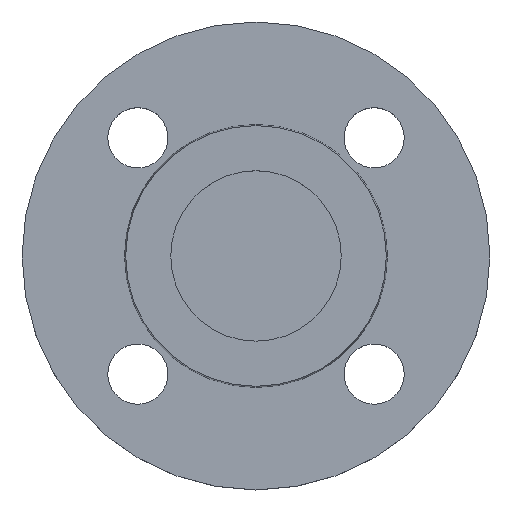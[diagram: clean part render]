
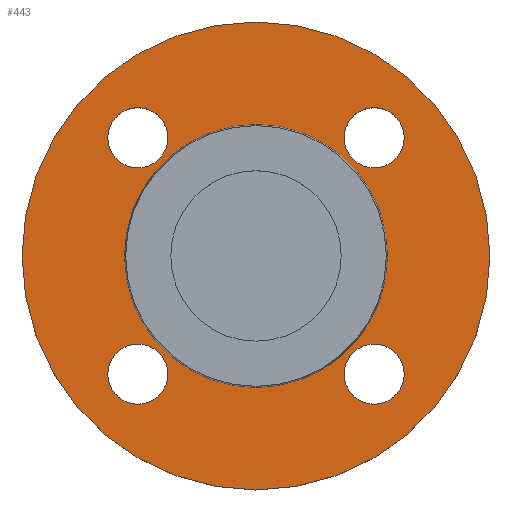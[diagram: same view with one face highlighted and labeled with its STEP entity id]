
A CAD part, top view. The second image highlights one B-rep face of the part: STEP entity #443.
In plain terms, the highlighted planar face has unit normal (0, 0, 1).
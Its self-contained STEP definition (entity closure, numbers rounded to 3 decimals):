
#7 = AXIS2_PLACEMENT_3D ( 'NONE', #211, #390, #555 ) ;
#14 = CARTESIAN_POINT ( 'NONE',  ( -44.355, -35.355, -2. ) ) ;
#15 = FACE_OUTER_BOUND ( 'NONE', #412, .T. ) ;
#34 = CARTESIAN_POINT ( 'NONE',  ( 44.355, 35.355, -2. ) ) ;
#38 = CIRCLE ( 'NONE', #46, 9. ) ;
#40 = EDGE_CURVE ( 'NONE', #389, #471, #581, .T. ) ;
#41 = EDGE_LOOP ( 'NONE', ( #102, #206 ) ) ;
#42 = DIRECTION ( 'NONE',  ( 0., 0., -1. ) ) ;
#46 = AXIS2_PLACEMENT_3D ( 'NONE', #113, #313, #477 ) ;
#61 = CIRCLE ( 'NONE', #62, 9. ) ;
#62 = AXIS2_PLACEMENT_3D ( 'NONE', #64, #267, #432 ) ;
#64 = CARTESIAN_POINT ( 'NONE',  ( -35.355, -35.355, -2. ) ) ;
#66 = FACE_BOUND ( 'NONE', #41, .T. ) ;
#85 = CARTESIAN_POINT ( 'NONE',  ( 35.355, 35.355, -2. ) ) ;
#92 = ORIENTED_EDGE ( 'NONE', *, *, #447, .T. ) ;
#96 = EDGE_CURVE ( 'NONE', #502, #419, #534, .T. ) ;
#102 = ORIENTED_EDGE ( 'NONE', *, *, #457, .T. ) ;
#113 = CARTESIAN_POINT ( 'NONE',  ( 35.355, -35.355, -2. ) ) ;
#118 = CIRCLE ( 'NONE', #132, 70. ) ;
#124 = DIRECTION ( 'NONE',  ( 1., 0., 0. ) ) ;
#130 = CARTESIAN_POINT ( 'NONE',  ( 39.353, 0., -2. ) ) ;
#132 = AXIS2_PLACEMENT_3D ( 'NONE', #183, #366, #532 ) ;
#134 = CARTESIAN_POINT ( 'NONE',  ( 35.355, 35.355, -2. ) ) ;
#141 = CARTESIAN_POINT ( 'NONE',  ( 70., 0., -2. ) ) ;
#173 = DIRECTION ( 'NONE',  ( 1., 0., 0. ) ) ;
#174 = AXIS2_PLACEMENT_3D ( 'NONE', #398, #564, #173 ) ;
#176 = CIRCLE ( 'NONE', #193, 9. ) ;
#177 = DIRECTION ( 'NONE',  ( -1., 0., 0. ) ) ;
#182 = EDGE_CURVE ( 'NONE', #253, #416, #415, .T. ) ;
#183 = CARTESIAN_POINT ( 'NONE',  ( 0., 0., -2. ) ) ;
#188 = DIRECTION ( 'NONE',  ( 0., 0., -1. ) ) ;
#191 = DIRECTION ( 'NONE',  ( -1., 0., 0. ) ) ;
#193 = AXIS2_PLACEMENT_3D ( 'NONE', #360, #525, #124 ) ;
#196 = EDGE_CURVE ( 'NONE', #416, #253, #38, .T. ) ;
#197 = EDGE_CURVE ( 'NONE', #198, #355, #61, .T. ) ;
#198 = VERTEX_POINT ( 'NONE', #14 ) ;
#202 = ORIENTED_EDGE ( 'NONE', *, *, #197, .T. ) ;
#206 = ORIENTED_EDGE ( 'NONE', *, *, #96, .T. ) ;
#209 = ORIENTED_EDGE ( 'NONE', *, *, #535, .T. ) ;
#211 = CARTESIAN_POINT ( 'NONE',  ( 35.355, -35.355, -2. ) ) ;
#219 = CARTESIAN_POINT ( 'NONE',  ( -26.355, 35.355, -2. ) ) ;
#224 = PLANE ( 'NONE',  #174 ) ;
#228 = CARTESIAN_POINT ( 'NONE',  ( -35.355, 35.355, -2. ) ) ;
#235 = AXIS2_PLACEMENT_3D ( 'NONE', #85, #288, #455 ) ;
#238 = CIRCLE ( 'NONE', #239, 9. ) ;
#239 = AXIS2_PLACEMENT_3D ( 'NONE', #228, #402, #569 ) ;
#246 = DIRECTION ( 'NONE',  ( 1., 0., 0. ) ) ;
#253 = VERTEX_POINT ( 'NONE', #523 ) ;
#260 = VERTEX_POINT ( 'NONE', #320 ) ;
#267 = DIRECTION ( 'NONE',  ( 0., 0., -1. ) ) ;
#269 = FACE_BOUND ( 'NONE', #352, .T. ) ;
#276 = CARTESIAN_POINT ( 'NONE',  ( -39.353, 0., -2. ) ) ;
#278 = CIRCLE ( 'NONE', #285, 9. ) ;
#280 = CARTESIAN_POINT ( 'NONE',  ( 26.355, -35.355, -2. ) ) ;
#285 = AXIS2_PLACEMENT_3D ( 'NONE', #134, #330, #492 ) ;
#288 = DIRECTION ( 'NONE',  ( 0., 0., -1. ) ) ;
#289 = AXIS2_PLACEMENT_3D ( 'NONE', #459, #42, #246 ) ;
#292 = ORIENTED_EDGE ( 'NONE', *, *, #196, .T. ) ;
#294 = ORIENTED_EDGE ( 'NONE', *, *, #584, .T. ) ;
#297 = EDGE_LOOP ( 'NONE', ( #514, #292 ) ) ;
#300 = CIRCLE ( 'NONE', #303, 39.353 ) ;
#303 = AXIS2_PLACEMENT_3D ( 'NONE', #578, #188, #371 ) ;
#313 = DIRECTION ( 'NONE',  ( 0., 0., -1. ) ) ;
#318 = FACE_BOUND ( 'NONE', #297, .T. ) ;
#320 = CARTESIAN_POINT ( 'NONE',  ( -70., 0., -2. ) ) ;
#323 = CARTESIAN_POINT ( 'NONE',  ( -26.355, -35.355, -2. ) ) ;
#330 = DIRECTION ( 'NONE',  ( 0., 0., -1. ) ) ;
#334 = CIRCLE ( 'NONE', #347, 70. ) ;
#339 = VERTEX_POINT ( 'NONE', #529 ) ;
#343 = AXIS2_PLACEMENT_3D ( 'NONE', #399, #566, #177 ) ;
#347 = AXIS2_PLACEMENT_3D ( 'NONE', #408, #580, #191 ) ;
#352 = EDGE_LOOP ( 'NONE', ( #294, #377 ) ) ;
#355 = VERTEX_POINT ( 'NONE', #323 ) ;
#360 = CARTESIAN_POINT ( 'NONE',  ( -35.355, -35.355, -2. ) ) ;
#366 = DIRECTION ( 'NONE',  ( 0., 0., -1. ) ) ;
#371 = DIRECTION ( 'NONE',  ( -1., 0., 0. ) ) ;
#376 = EDGE_CURVE ( 'NONE', #260, #594, #118, .T. ) ;
#377 = ORIENTED_EDGE ( 'NONE', *, *, #524, .T. ) ;
#378 = EDGE_LOOP ( 'NONE', ( #209, #550 ) ) ;
#383 = ORIENTED_EDGE ( 'NONE', *, *, #376, .F. ) ;
#389 = VERTEX_POINT ( 'NONE', #130 ) ;
#390 = DIRECTION ( 'NONE',  ( 0., 0., -1. ) ) ;
#398 = CARTESIAN_POINT ( 'NONE',  ( 39.353, 0., -2. ) ) ;
#399 = CARTESIAN_POINT ( 'NONE',  ( 0., 0., -2. ) ) ;
#402 = DIRECTION ( 'NONE',  ( 0., 0., -1. ) ) ;
#408 = CARTESIAN_POINT ( 'NONE',  ( 0., 0., -2. ) ) ;
#412 = EDGE_LOOP ( 'NONE', ( #517, #383 ) ) ;
#415 = CIRCLE ( 'NONE', #7, 9. ) ;
#416 = VERTEX_POINT ( 'NONE', #280 ) ;
#419 = VERTEX_POINT ( 'NONE', #219 ) ;
#430 = EDGE_LOOP ( 'NONE', ( #92, #202 ) ) ;
#432 = DIRECTION ( 'NONE',  ( 1., 0., 0. ) ) ;
#433 = FACE_BOUND ( 'NONE', #378, .T. ) ;
#443 = ADVANCED_FACE ( 'NONE', ( #318, #479, #66, #269, #433, #15 ), #224, .T. ) ;
#447 = EDGE_CURVE ( 'NONE', #355, #198, #176, .T. ) ;
#449 = CIRCLE ( 'NONE', #235, 9. ) ;
#455 = DIRECTION ( 'NONE',  ( 1., 0., 0. ) ) ;
#457 = EDGE_CURVE ( 'NONE', #419, #502, #238, .T. ) ;
#459 = CARTESIAN_POINT ( 'NONE',  ( -35.355, 35.355, -2. ) ) ;
#471 = VERTEX_POINT ( 'NONE', #276 ) ;
#477 = DIRECTION ( 'NONE',  ( 1., 0., 0. ) ) ;
#479 = FACE_BOUND ( 'NONE', #430, .T. ) ;
#492 = DIRECTION ( 'NONE',  ( 1., 0., 0. ) ) ;
#502 = VERTEX_POINT ( 'NONE', #576 ) ;
#514 = ORIENTED_EDGE ( 'NONE', *, *, #182, .T. ) ;
#517 = ORIENTED_EDGE ( 'NONE', *, *, #575, .F. ) ;
#523 = CARTESIAN_POINT ( 'NONE',  ( 44.355, -35.355, -2. ) ) ;
#524 = EDGE_CURVE ( 'NONE', #339, #585, #278, .T. ) ;
#525 = DIRECTION ( 'NONE',  ( 0., 0., -1. ) ) ;
#529 = CARTESIAN_POINT ( 'NONE',  ( 26.355, 35.355, -2. ) ) ;
#532 = DIRECTION ( 'NONE',  ( -1., 0., 0. ) ) ;
#534 = CIRCLE ( 'NONE', #289, 9. ) ;
#535 = EDGE_CURVE ( 'NONE', #471, #389, #300, .T. ) ;
#550 = ORIENTED_EDGE ( 'NONE', *, *, #40, .T. ) ;
#555 = DIRECTION ( 'NONE',  ( 1., 0., 0. ) ) ;
#564 = DIRECTION ( 'NONE',  ( 0., 0., 1. ) ) ;
#566 = DIRECTION ( 'NONE',  ( 0., 0., -1. ) ) ;
#569 = DIRECTION ( 'NONE',  ( 1., 0., 0. ) ) ;
#575 = EDGE_CURVE ( 'NONE', #594, #260, #334, .T. ) ;
#576 = CARTESIAN_POINT ( 'NONE',  ( -44.355, 35.355, -2. ) ) ;
#578 = CARTESIAN_POINT ( 'NONE',  ( 0., 0., -2. ) ) ;
#580 = DIRECTION ( 'NONE',  ( 0., 0., -1. ) ) ;
#581 = CIRCLE ( 'NONE', #343, 39.353 ) ;
#584 = EDGE_CURVE ( 'NONE', #585, #339, #449, .T. ) ;
#585 = VERTEX_POINT ( 'NONE', #34 ) ;
#594 = VERTEX_POINT ( 'NONE', #141 ) ;
